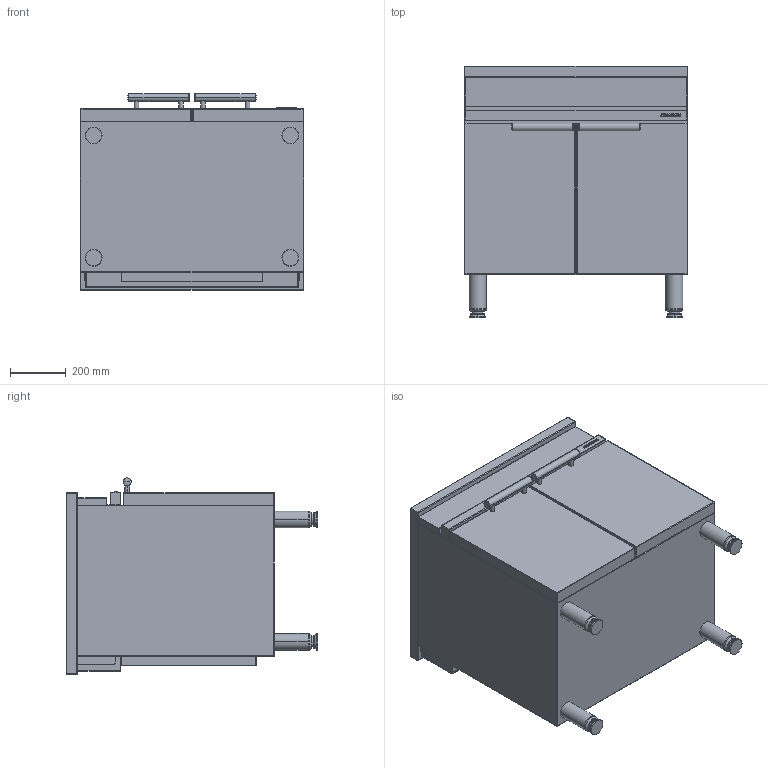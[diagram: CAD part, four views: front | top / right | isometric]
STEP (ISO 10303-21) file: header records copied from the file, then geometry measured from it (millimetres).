
FILE_DESCRIPTION((''),'2;1');
FILE_NAME('CMA801BCFD_CPM_EXPORT_STEP_ASM','2017-11-22T',('r.avril'),(''),'PRO/ENGINEER BY PARAMETRIC TECHNOLOGY CORPORATION, 2014200','PRO/ENGINEER BY PARAMETRIC TECHNOLOGY CORPORATION, 2014200','');
FILE_SCHEMA(('AP203_CONFIGURATION_CONTROLLED_3D_DESIGN_OF_MECHANICAL_PARTS_AND_ASSEMBLIES_MIM_LF { 1 0 10303 403 2 1 2 }'));
Length unit declared in the file: millimetre
Products named in the file (5): MODULES_AMB_800_EXPORT_STEP; TABLE_800_BCFD; PORTE_MODULE_AMB_400D; PORTE_MODULE_AMB_400G; CMA801BCFD_CPM_EXPORT_STEP_ASM
Assembly tree (4 placements, depth 2):
  CMA801BCFD_CPM_EXPORT_STEP_ASM
    MODULES_AMB_800_EXPORT_STEP
    TABLE_800_BCFD
    PORTE_MODULE_AMB_400D
    PORTE_MODULE_AMB_400G
Bounding box: 800 x 900 x 703 mm (x, y, z)
Volume: 123533922.7 mm3; surface area: 7786492.8 mm2
Topology: 14 solids, 32 shells, 452 faces, 1627 edges, 1474 vertices
Faces by surface type: cylinder 193, plane 139, sphere 60, torus 44, cone 16
Entity records: 21627 total; most frequent: CARTESIAN_POINT 5287, DIRECTION 2758, ORIENTED_EDGE 2304, EDGE_CURVE 1377, AXIS2_PLACEMENT_3D 1002, VERTEX_POINT 990, VECTOR 739, LINE 739
